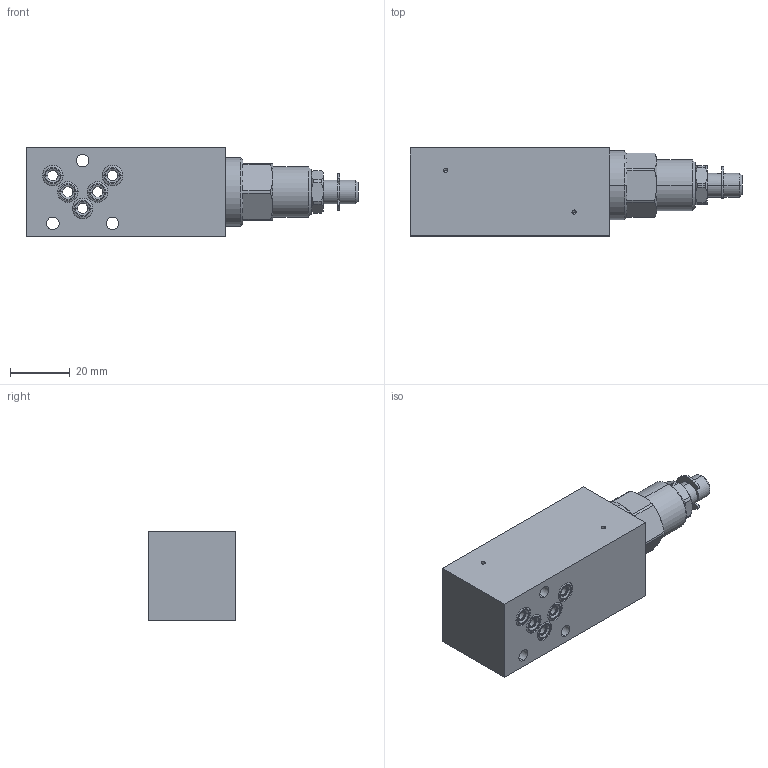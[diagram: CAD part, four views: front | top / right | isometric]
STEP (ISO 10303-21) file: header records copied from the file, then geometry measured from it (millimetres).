
FILE_DESCRIPTION (( 'STEP AP214' ), '1' );
FILE_NAME ('BSSA03-B.STEP', '2017-03-23T06:47:29', ( '' ), ( '' ), 'SwSTEP 2.0', 'SolidWorks 2016', '' );
FILE_SCHEMA (( 'AUTOMOTIVE_DESIGN' ));
Length unit declared in the file: millimetre
Products named in the file (1): BSSA03-B
Bounding box: 111.3 x 29.5 x 30 mm (x, y, z)
Volume: 65989.6 mm3; surface area: 15325.7 mm2
Topology: 7 solids, 7 shells, 295 faces, 758 edges, 483 vertices
Faces by surface type: plane 109, cylinder 103, cone 43, bspline 40
Entity records: 13049 total; most frequent: CARTESIAN_POINT 2651, DIRECTION 1505, ORIENTED_EDGE 1496, EDGE_CURVE 748, AXIS2_PLACEMENT_3D 621, VERTEX_POINT 483, CIRCLE 365, EDGE_LOOP 337
